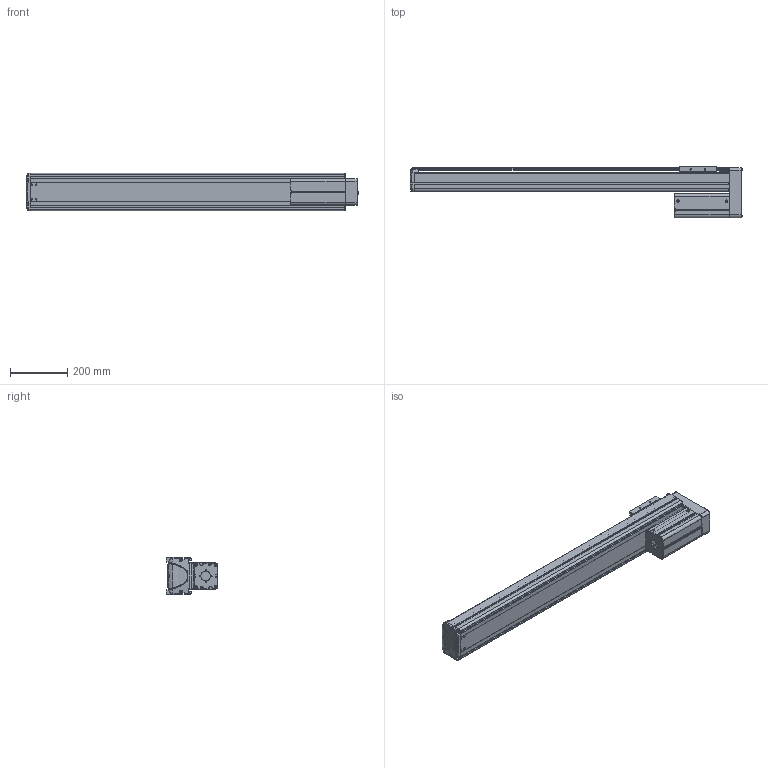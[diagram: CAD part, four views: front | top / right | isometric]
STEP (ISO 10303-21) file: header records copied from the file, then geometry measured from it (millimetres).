
FILE_DESCRIPTION((''),'2;1');
FILE_NAME('BE30E-UU-M_B-90_IGS_PRT','2017-06-17T',(' '),(''),'PRO/ENGINEER BY PARAMETRIC TECHNOLOGY CORPORATION, 2015030','PRO/ENGINEER BY PARAMETRIC TECHNOLOGY CORPORATION, 2015030','');
FILE_SCHEMA(('CONFIG_CONTROL_DESIGN'));
Length unit declared in the file: millimetre
Products named in the file (1): BE30E-UU-M_B-90_IGS_PRT
Bounding box: 1161.9 x 180 x 130 mm (x, y, z)
Volume: 3847649.2 mm3; surface area: 1657872.8 mm2
Topology: 2 solids, 124 shells, 2048 faces, 5530 edges, 3589 vertices
Faces by surface type: plane 993, cylinder 859, cone 107, torus 37, bspline 28, sphere 24
Entity records: 66411 total; most frequent: CARTESIAN_POINT 14069, DIRECTION 11060, ORIENTED_EDGE 10513, EDGE_CURVE 5492, AXIS2_PLACEMENT_3D 3901, VERTEX_POINT 3589, VECTOR 3258, LINE 3258
